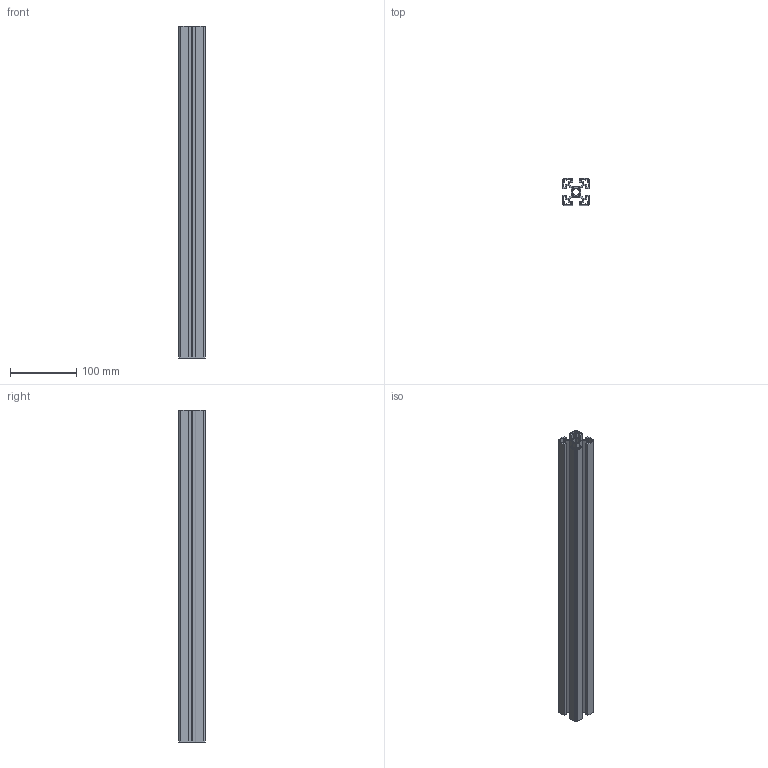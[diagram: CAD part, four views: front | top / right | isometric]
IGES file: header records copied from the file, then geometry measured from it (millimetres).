
Start section: SolidWorks IGES file using analytic representation for surfaces
Global section: file name: C:\Documents and Settings\Administrator\デスクトップ\指定保存後3回目\SolidWorks\SF\SF40・45\Frame\SFF-C04.IGS,41HSolidWorks; native system: 2006 by SolidWorks Corporation; preprocessor: SolidWorks 2006 by SolidWorks Corporation; author: Administrator; date: 061213.113520; units: millimetre
Bounding box: 40 x 40 x 500 mm (x, y, z)
Surface area: 276860.7 mm2 (no closed solid volume)
Topology: 0 solids, 0 shells, 239 faces, 2623 edges, 3334 vertices
Faces by surface type: bspline 146, revolution 93
